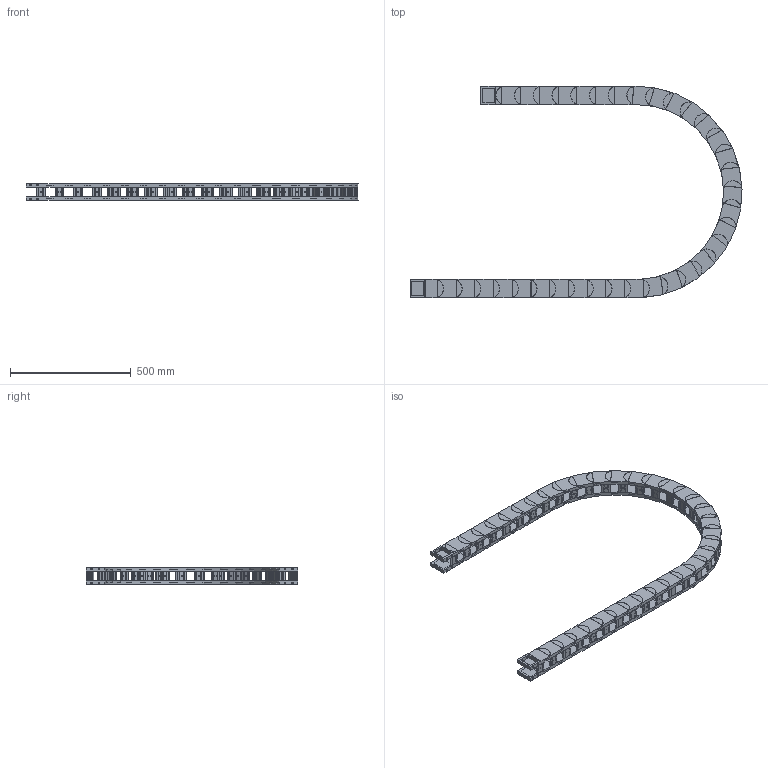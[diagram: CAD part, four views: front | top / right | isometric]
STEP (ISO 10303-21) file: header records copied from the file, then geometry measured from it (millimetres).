
FILE_DESCRIPTION((''),'2;1');
FILE_NAME('HD55-R400-ZPT_ASM','2022-06-17T19:57:49',('admin'),(''),'CREO PARAMETRIC BY PTC INC, 2021164','CREO PARAMETRIC BY PTC INC, 2021164','');
FILE_SCHEMA(('CONFIG_CONTROL_DESIGN','GEOMETRIC_VALIDATION_PROPERTIES_MIM'));
Length unit declared in the file: millimetre
Products named in the file (6): HD-55; 55-500001; HD55_ASM; H55-T1; H55-T2; HD55-R400-ZPT_ASM
Assembly tree (40 placements, depth 3):
  HD55-R400-ZPT_ASM
    HD55_ASM  x34
      HD-55
      55-500001
    H55-T1
    H55-T2
    55-500001  x2
Bounding box: 1373.89 x 875.66 x 72.2 mm (x, y, z)
Volume: 7214977.5 mm3; surface area: 2279947.6 mm2
Topology: 144 solids, 144 shells, 2366 faces, 6070 edges, 4140 vertices
Faces by surface type: plane 1964, cylinder 402
Entity records: 8903 total; most frequent: CARTESIAN_POINT 1316, DIRECTION 1278, ORIENTED_EDGE 1172, EDGE_CURVE 586, AXIS2_PLACEMENT_3D 430, VECTOR 418, LINE 418, VERTEX_POINT 396
